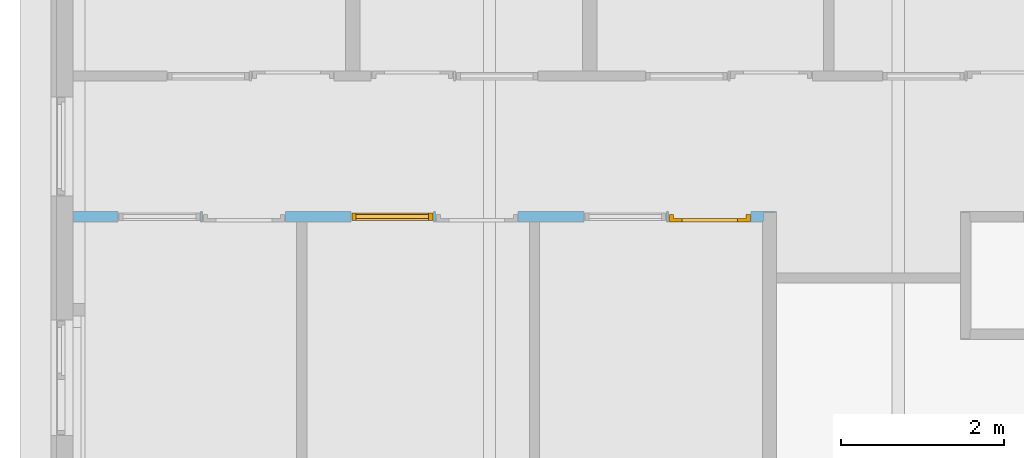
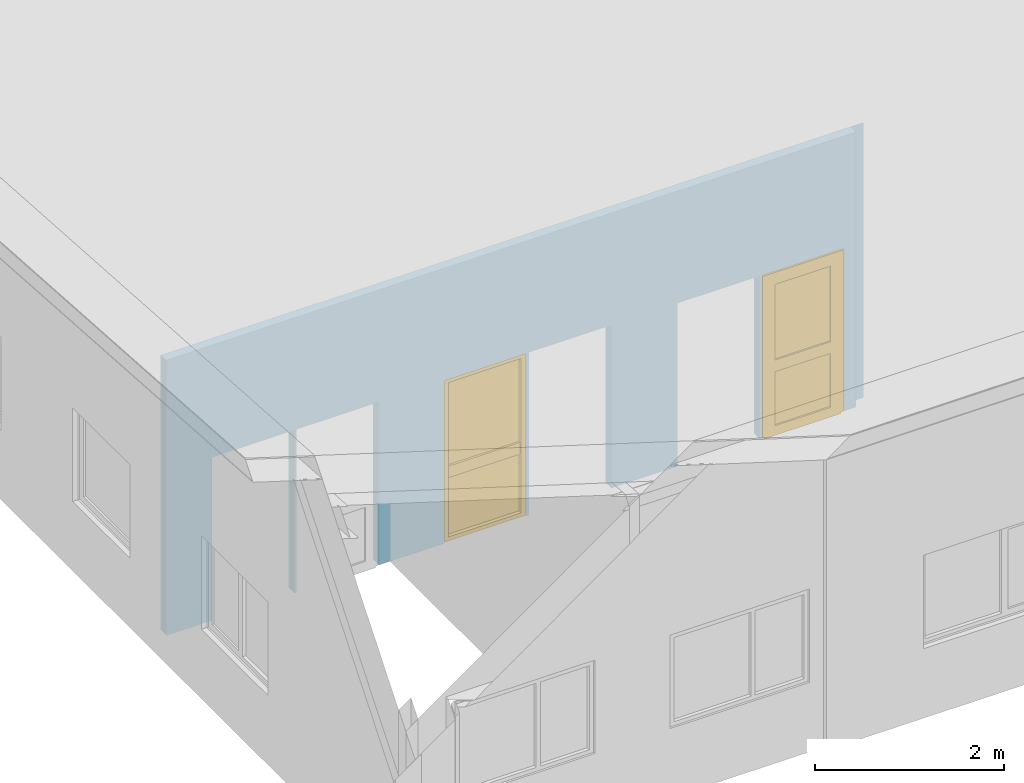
# One storey, part 9 of 37: 1 door, 1 window, 6 openings, plus 1 element that does not belong to this part.
"""IFC2X3 building model written with IfcOpenShell, lengths in millimetres."""

from ifc_helpers import new_model, entity, si_unit, converted_unit, frame, frame_2d, origin, origin_with_axes, place, context, subcontext, project, spatial, polyline, rectangle, outline, extrude, clip, halfspace, faceted_brep, material, layer, layer_set, layer_usage, type_object, element, fill, save


model = new_model("IFC2X3")

# Units and contexts
model_context = context("Model", 3, precision=1e-05, world=origin())
plan_context = context("Plan", 3, precision=1e-05, world=origin())
body_context = subcontext(model_context, "Body", "Model", "MODEL_VIEW")
ifc_project = project(units=[si_unit("LENGTHUNIT", "METRE", prefix="MILLI"), converted_unit("PLANEANGLEUNIT", "DEGREE", entity("IfcPlaneAngleMeasure", 0.0174532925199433), si_unit("PLANEANGLEUNIT", "RADIAN"), dimensions=[0, 0, 0, 0, 0, 0, 0]), si_unit("AREAUNIT", "SQUARE_METRE"), si_unit("VOLUMEUNIT", "CUBIC_METRE")], contexts=[model_context, plan_context])

# Building, storey
building_placement = place(None, origin())
building = spatial("IfcBuilding", under=ifc_project, at=building_placement, Name="HEKF Administrasjonbygg", CompositionType="ELEMENT")
storey_placement = place(building_placement, frame((0.0, 0.0, 9900.0), z_axis=(0.0, 0.0, 1.0), x_axis=(1.0, 0.0, 0.0)))
storey = spatial("IfcBuildingStorey", under=building, at=storey_placement, Name="Plan 2", CompositionType="ELEMENT", Elevation=9900.0)

# Wall, openings, window, door
ifc_material_1 = material(Name="gips")
ifc_layer_1 = layer(ifc_material_1, 13.0)
ifc_material_2 = material(Name="riegel stål 100")
ifc_layer_2 = layer(ifc_material_2, 100.0000000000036)
ifc_material_3 = material(Name="gips")
ifc_layer_3 = layer(ifc_material_3, 13.00000000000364)
ifc_layer_set = layer_set([ifc_layer_1, ifc_layer_2, ifc_layer_3])
ifc_layer_usage = layer_usage(ifc_layer_set, "AXIS2", "POSITIVE", 0.0)
wall_placement = place(storey_placement, frame((9899.999999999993, -6924.999999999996, 0.0), z_axis=(0.0, 0.0, 1.0), x_axis=(1.0, -4.311934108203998e-16, 0.0)))
wall = element("IfcWallStandardCase", 1, at=wall_placement, inside=storey, material=ifc_layer_usage, context=body_context, shape_type="Clipping", body=[
    clip(extrude(outline(polyline([(0.0, 0.0), (8437.0, 0.0), (8437.0, 13.0), (8450.0, 13.00000000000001), (8450.0, 113.0), (8600.0, 113.0000000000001), (8600.0, 126.0000000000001), (-5.433036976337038e-14, 126.0), (0.0, 0.0)])), origin_with_axes(), (0.0, 0.0, 1.0), 3561.666666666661), halfspace(frame((0.0, 0.0, 3561.666666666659), z_axis=(1.067272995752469e-16, -0.06651901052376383, -0.9977851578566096), x_axis=(1.0, 0.0, 2.155967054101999e-16)), True)),
])
opening_1_placement = place(wall_placement, frame((6255.0, -2.728484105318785e-12, 0.0), z_axis=(0.0, 1.0, 0.0), x_axis=(0.0, 0.0, 1.0)))
element("IfcOpeningElement", 2, at=opening_1_placement, cuts=wall, Name="Window opening", ObjectType="Opening", context=body_context, shape_type="SweptSolid", body=[
    extrude(rectangle(XDim=2110.0, YDim=1010.0, at=frame_2d((1055.0, 505.0), x_axis=(1.0, 0.0))), origin_with_axes(), (0.0, 0.0, 1.0), 126.0),
])
opening_2_placement = place(wall_placement, frame((554.9999999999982, 0.0, 0.0), z_axis=(0.0, 1.0, 0.0), x_axis=(0.0, 0.0, 1.0)))
element("IfcOpeningElement", 3, at=opening_2_placement, cuts=wall, Name="Window opening", ObjectType="Opening", context=body_context, shape_type="SweptSolid", body=[
    extrude(rectangle(XDim=2110.0, YDim=1010.0, at=frame_2d((1055.0, 505.0), x_axis=(1.0, 0.0))), origin_with_axes(), (0.0, 0.0, 1.0), 126.0),
])
opening_3_placement = place(wall_placement, frame((3404.999999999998, -1.818989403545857e-12, 0.0), z_axis=(0.0, 1.0, 0.0), x_axis=(0.0, 0.0, 1.0)))
opening_3 = element("IfcOpeningElement", 4, at=opening_3_placement, cuts=wall, Name="Window opening", ObjectType="Opening", context=body_context, shape_type="SweptSolid", body=[
    extrude(rectangle(XDim=2110.0, YDim=1010.0, at=frame_2d((1055.0, 505.0), x_axis=(1.0, 0.0))), origin_with_axes(), (0.0, 0.0, 1.0), 126.0),
])
opening_4_placement = place(wall_placement, frame((7290.0, -3.637978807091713e-12, 0.0), z_axis=(0.0, 1.0, 0.0), x_axis=(0.0, 0.0, 1.0)))
opening_4 = element("IfcOpeningElement", 5, at=opening_4_placement, cuts=wall, Name="garasjeport med glassfelter:45x6", ObjectType="Opening", context=body_context, shape_type="SweptSolid", body=[
    extrude(rectangle(XDim=2110.0, YDim=1010.0, at=frame_2d((1055.0, 505.0), x_axis=(1.0, 0.0))), origin_with_axes(), (0.0, 0.0, 1.0), 126.0),
])
opening_5_placement = place(wall_placement, frame((4439.999999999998, -1.818989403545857e-12, 0.0), z_axis=(0.0, 1.0, 0.0), x_axis=(0.0, 0.0, 1.0)))
element("IfcOpeningElement", 6, at=opening_5_placement, cuts=wall, Name="garasjeport med glassfelter:45x6", ObjectType="Opening", context=body_context, shape_type="SweptSolid", body=[
    extrude(rectangle(XDim=2110.0, YDim=1010.0, at=frame_2d((1055.0, 505.0), x_axis=(1.0, 0.0))), origin_with_axes(), (0.0, 0.0, 1.0), 126.0000000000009),
])
opening_6_placement = place(wall_placement, frame((1589.999999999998, -9.094947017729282e-13, 0.0), z_axis=(0.0, 1.0, 0.0), x_axis=(0.0, 0.0, 1.0)))
element("IfcOpeningElement", 7, at=opening_6_placement, cuts=wall, Name="garasjeport med glassfelter:45x6", ObjectType="Opening", context=body_context, shape_type="SweptSolid", body=[
    extrude(rectangle(XDim=2110.0, YDim=1010.0, at=frame_2d((1055.0, 505.0), x_axis=(1.0, 0.0))), origin_with_axes(), (0.0, 0.0, 1.0), 126.0),
])
ifc_material_4 = material()
window_style = type_object("IfcWindowStyle", Name="IV108", ConstructionType="NOTDEFINED", OperationType="USERDEFINED", ParameterTakesPrecedence=False, Sizeable=False)
window_placement = place(opening_3_placement, frame((0.0, 0.0, 0.0), z_axis=(1.0, 0.0, 0.0), x_axis=(0.0, 1.0, 0.0)))
window = element("IfcWindow", 8, at=window_placement, inside=storey, type_object=window_style, material=ifc_material_4, Name="IV108", OverallHeight=2110.0, OverallWidth=1010.0, context=body_context, shape_type="Brep", body=[
    faceted_brep([(1000.0, 20.00000000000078, 2100.0), (1000.0, 20.00000000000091, -2.816687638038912e-15), (950.0, 20.0000000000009, -2.816687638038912e-15), (950.0, 20.00000000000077, 2100.0), (1000.0, 112.0000000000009, 2.816687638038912e-15), (1000.0, 112.0000000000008, 2100.0), (950.0, 112.0000000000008, 2100.0), (950.0, 112.0000000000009, 2.816687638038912e-15), (1000.0, 20.00000000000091, -2.816687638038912e-15), (1000.0, 20.00000000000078, 2100.0), (1000.0, 112.0000000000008, 2100.0), (1000.0, 112.0000000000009, 2.816687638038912e-15), (950.0, 20.0000000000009, -2.816687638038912e-15), (1000.0, 20.00000000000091, -2.816687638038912e-15), (1000.0, 112.0000000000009, 2.816687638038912e-15), (950.0, 112.0000000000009, 2.816687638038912e-15), (950.0, 20.00000000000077, 2100.0), (950.0, 20.0000000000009, -2.816687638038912e-15), (950.0, 112.0000000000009, 2.816687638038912e-15), (950.0, 112.0000000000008, 2100.0), (1000.0, 20.00000000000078, 2100.0), (950.0, 20.00000000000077, 2100.0), (950.0, 112.0000000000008, 2100.0), (1000.0, 112.0000000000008, 2100.0)], [[[0, 1, 2, 3]], [[4, 5, 6, 7]], [[8, 9, 10, 11]], [[12, 13, 14, 15]], [[16, 17, 18, 19]], [[20, 21, 22, 23]]], orient=[[False], [False], [False], [False], [False], [False]]),
    faceted_brep([(60.0, 20.00000000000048, 2100.0), (60.0, 20.00000000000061, -2.816687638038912e-15), (10.0, 20.0000000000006, -2.816687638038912e-15), (10.0, 20.00000000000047, 2100.0), (60.0, 112.0000000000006, 2.816687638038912e-15), (60.0, 112.0000000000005, 2100.0), (10.0, 112.0000000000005, 2100.0), (10.0, 112.0000000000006, 2.816687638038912e-15), (60.0, 20.00000000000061, -2.816687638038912e-15), (60.0, 20.00000000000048, 2100.0), (60.0, 112.0000000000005, 2100.0), (60.0, 112.0000000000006, 2.816687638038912e-15), (10.0, 20.0000000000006, -2.816687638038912e-15), (60.0, 20.00000000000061, -2.816687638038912e-15), (60.0, 112.0000000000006, 2.816687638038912e-15), (10.0, 112.0000000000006, 2.816687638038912e-15), (10.0, 20.00000000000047, 2100.0), (10.0, 20.0000000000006, -2.816687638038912e-15), (10.0, 112.0000000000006, 2.816687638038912e-15), (10.0, 112.0000000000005, 2100.0), (60.0, 20.00000000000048, 2100.0), (10.0, 20.00000000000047, 2100.0), (10.0, 112.0000000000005, 2100.0), (60.0, 112.0000000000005, 2100.0)], [[[0, 1, 2, 3]], [[4, 5, 6, 7]], [[8, 9, 10, 11]], [[12, 13, 14, 15]], [[16, 17, 18, 19]], [[20, 21, 22, 23]]], orient=[[False], [False], [False], [False], [False], [False]]),
    faceted_brep([(950.0, 20.0000000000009, 50.0), (950.0, 20.0000000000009, -2.816687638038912e-15), (60.00000000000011, 20.00000000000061, -2.816687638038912e-15), (60.00000000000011, 20.00000000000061, 50.0), (950.0, 112.0000000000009, 2.816687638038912e-15), (950.0, 112.0000000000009, 50.00000000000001), (60.00000000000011, 112.0000000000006, 50.00000000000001), (60.00000000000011, 112.0000000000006, 2.816687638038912e-15), (950.0, 20.0000000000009, -2.816687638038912e-15), (950.0, 20.0000000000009, 50.0), (950.0, 112.0000000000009, 50.00000000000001), (950.0, 112.0000000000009, 2.816687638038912e-15), (60.00000000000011, 20.00000000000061, -2.816687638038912e-15), (950.0, 20.0000000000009, -2.816687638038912e-15), (950.0, 112.0000000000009, 2.816687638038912e-15), (60.00000000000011, 112.0000000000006, 2.816687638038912e-15), (60.00000000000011, 20.00000000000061, 50.0), (60.00000000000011, 20.00000000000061, -2.816687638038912e-15), (60.00000000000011, 112.0000000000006, 2.816687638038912e-15), (60.00000000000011, 112.0000000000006, 50.00000000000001), (950.0, 20.0000000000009, 50.0), (60.00000000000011, 20.00000000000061, 50.0), (60.00000000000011, 112.0000000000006, 50.00000000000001), (950.0, 112.0000000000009, 50.00000000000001)], [[[0, 1, 2, 3]], [[4, 5, 6, 7]], [[8, 9, 10, 11]], [[12, 13, 14, 15]], [[16, 17, 18, 19]], [[20, 21, 22, 23]]], orient=[[False], [False], [False], [False], [False], [False]]),
    faceted_brep([(950.0, 20.00000000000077, 2100.000000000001), (950.0, 20.00000000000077, 2050.000000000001), (60.00000000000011, 20.00000000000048, 2050.000000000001), (60.00000000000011, 20.00000000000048, 2100.000000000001), (950.0, 112.0000000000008, 2050.000000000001), (950.0, 112.0000000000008, 2100.000000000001), (60.00000000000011, 112.0000000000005, 2100.000000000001), (60.00000000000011, 112.0000000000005, 2050.000000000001), (950.0, 20.00000000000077, 2050.000000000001), (950.0, 20.00000000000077, 2100.000000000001), (950.0, 112.0000000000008, 2100.000000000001), (950.0, 112.0000000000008, 2050.000000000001), (60.00000000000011, 20.00000000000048, 2050.000000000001), (950.0, 20.00000000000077, 2050.000000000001), (950.0, 112.0000000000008, 2050.000000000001), (60.00000000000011, 112.0000000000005, 2050.000000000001), (60.00000000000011, 20.00000000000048, 2100.000000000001), (60.00000000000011, 20.00000000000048, 2050.000000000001), (60.00000000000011, 112.0000000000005, 2050.000000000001), (60.00000000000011, 112.0000000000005, 2100.000000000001), (950.0, 20.00000000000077, 2100.000000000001), (60.00000000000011, 20.00000000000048, 2100.000000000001), (60.00000000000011, 112.0000000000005, 2100.000000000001), (950.0, 112.0000000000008, 2100.000000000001)], [[[0, 1, 2, 3]], [[4, 5, 6, 7]], [[8, 9, 10, 11]], [[12, 13, 14, 15]], [[16, 17, 18, 19]], [[20, 21, 22, 23]]], orient=[[False], [False], [False], [False], [False], [False]]),
    faceted_brep([(950.0, 41.00000000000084, 950.0), (950.0, 41.00000000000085, 800.0), (60.00000000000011, 41.00000000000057, 800.0), (60.00000000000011, 41.00000000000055, 950.0), (950.0, 91.00000000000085, 800.0), (950.0, 91.00000000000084, 950.0), (60.00000000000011, 91.00000000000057, 950.0), (60.00000000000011, 91.00000000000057, 800.0), (950.0, 41.00000000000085, 800.0), (950.0, 41.00000000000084, 950.0), (950.0, 91.00000000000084, 950.0), (950.0, 91.00000000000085, 800.0), (60.00000000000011, 41.00000000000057, 800.0), (950.0, 41.00000000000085, 800.0), (950.0, 91.00000000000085, 800.0), (60.00000000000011, 91.00000000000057, 800.0), (60.00000000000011, 41.00000000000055, 950.0), (60.00000000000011, 41.00000000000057, 800.0), (60.00000000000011, 91.00000000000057, 800.0), (60.00000000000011, 91.00000000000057, 950.0), (950.0, 41.00000000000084, 950.0), (60.00000000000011, 41.00000000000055, 950.0), (60.00000000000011, 91.00000000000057, 950.0), (950.0, 91.00000000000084, 950.0)], [[[0, 1, 2, 3]], [[4, 5, 6, 7]], [[8, 9, 10, 11]], [[12, 13, 14, 15]], [[16, 17, 18, 19]], [[20, 21, 22, 23]]], orient=[[False], [False], [False], [False], [False], [False]]),
    faceted_brep([(950.0, 66.00000000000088, 50.0), (60.00000000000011, 66.00000000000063, 50.0), (60.00000000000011, 66.00000000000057, 800.0), (950.0, 66.00000000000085, 800.0), (950.0, 67.00000000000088, 50.0), (950.0, 67.00000000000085, 800.0), (60.00000000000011, 67.00000000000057, 800.0), (60.00000000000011, 67.00000000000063, 50.0), (950.0, 66.00000000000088, 50.0), (950.0, 67.00000000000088, 50.0), (60.00000000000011, 67.00000000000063, 50.0), (60.00000000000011, 66.00000000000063, 50.0), (60.00000000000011, 66.00000000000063, 50.0), (60.00000000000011, 67.00000000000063, 50.0), (60.00000000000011, 67.00000000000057, 800.0), (60.00000000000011, 66.00000000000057, 800.0), (60.00000000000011, 66.00000000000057, 800.0), (60.00000000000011, 67.00000000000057, 800.0), (950.0, 67.00000000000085, 800.0), (950.0, 66.00000000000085, 800.0), (950.0, 66.00000000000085, 800.0), (950.0, 67.00000000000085, 800.0), (950.0, 67.00000000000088, 50.0), (950.0, 66.00000000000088, 50.0)], [[[0, 1, 2, 3]], [[4, 5, 6, 7]], [[8, 9, 10, 11]], [[12, 13, 14, 15]], [[16, 17, 18, 19]], [[20, 21, 22, 23]]], orient=[[False], [False], [False], [False], [False], [False]]),
    faceted_brep([(950.0, 66.00000000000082, 950.0000000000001), (60.00000000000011, 66.00000000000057, 950.0000000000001), (60.00000000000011, 66.0000000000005, 2050.000000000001), (950.0, 66.00000000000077, 2050.000000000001), (950.0, 67.00000000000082, 950.0000000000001), (950.0, 67.00000000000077, 2050.000000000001), (60.00000000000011, 67.0000000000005, 2050.000000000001), (60.00000000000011, 67.00000000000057, 950.0000000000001), (950.0, 66.00000000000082, 950.0000000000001), (950.0, 67.00000000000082, 950.0000000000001), (60.00000000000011, 67.00000000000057, 950.0000000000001), (60.00000000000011, 66.00000000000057, 950.0000000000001), (60.00000000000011, 66.00000000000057, 950.0000000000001), (60.00000000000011, 67.00000000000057, 950.0000000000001), (60.00000000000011, 67.0000000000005, 2050.000000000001), (60.00000000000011, 66.0000000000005, 2050.000000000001), (60.00000000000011, 66.0000000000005, 2050.000000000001), (60.00000000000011, 67.0000000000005, 2050.000000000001), (950.0, 67.00000000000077, 2050.000000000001), (950.0, 66.00000000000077, 2050.000000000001), (950.0, 66.00000000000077, 2050.000000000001), (950.0, 67.00000000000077, 2050.000000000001), (950.0, 67.00000000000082, 950.0000000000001), (950.0, 66.00000000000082, 950.0000000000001)], [[[0, 1, 2, 3]], [[4, 5, 6, 7]], [[8, 9, 10, 11]], [[12, 13, 14, 15]], [[16, 17, 18, 19]], [[20, 21, 22, 23]]], orient=[[False], [False], [False], [False], [False], [False]]),
])
fill(opening_3, window)
ifc_material_5 = material()
door_style = type_object("IfcDoorStyle", Name="D114", ConstructionType="NOTDEFINED", OperationType="USERDEFINED", ParameterTakesPrecedence=False, Sizeable=False)
door_placement = place(opening_4_placement, frame((0.0, 0.0, 0.0), z_axis=(1.0, 0.0, 0.0), x_axis=(0.0, 1.0, 0.0)))
door = element("IfcDoor", 9, at=door_placement, inside=storey, type_object=door_style, material=ifc_material_5, Name="D114", OverallHeight=2110.0, OverallWidth=1010.0, context=body_context, shape_type="Brep", body=[
    faceted_brep([(1000.0, 1.000000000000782, 2090.0), (1000.0, 1.00000000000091, -2.816687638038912e-15), (950.0, 1.000000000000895, -2.816687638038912e-15), (950.0, 1.000000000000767, 2090.0), (1000.0, 93.00000000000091, 2.816687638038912e-15), (1000.0, 93.00000000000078, 2090.0), (950.0, 93.00000000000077, 2090.0), (950.0, 93.0000000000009, 2.816687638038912e-15), (1000.0, 1.00000000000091, -2.816687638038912e-15), (1000.0, 1.000000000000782, 2090.0), (1000.0, 93.00000000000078, 2090.0), (1000.0, 93.00000000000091, 2.816687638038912e-15), (950.0, 1.000000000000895, -2.816687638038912e-15), (1000.0, 1.00000000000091, -2.816687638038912e-15), (1000.0, 93.00000000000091, 2.816687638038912e-15), (950.0, 93.0000000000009, 2.816687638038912e-15), (950.0, 1.000000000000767, 2090.0), (950.0, 1.000000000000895, -2.816687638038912e-15), (950.0, 93.0000000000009, 2.816687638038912e-15), (950.0, 93.00000000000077, 2090.0), (1000.0, 1.000000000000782, 2090.0), (950.0, 1.000000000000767, 2090.0), (950.0, 93.00000000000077, 2090.0), (1000.0, 93.00000000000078, 2090.0)], [[[0, 1, 2, 3]], [[4, 5, 6, 7]], [[8, 9, 10, 11]], [[12, 13, 14, 15]], [[16, 17, 18, 19]], [[20, 21, 22, 23]]], orient=[[False], [False], [False], [False], [False], [False]]),
    faceted_brep([(60.0, 1.000000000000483, 2090.0), (60.0, 1.000000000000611, -2.816687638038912e-15), (10.0, 1.000000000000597, -2.816687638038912e-15), (10.0, 1.000000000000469, 2090.0), (60.0, 93.00000000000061, 2.816687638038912e-15), (60.0, 93.00000000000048, 2090.0), (10.0, 93.00000000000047, 2090.0), (10.0, 93.0000000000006, 2.816687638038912e-15), (60.0, 1.000000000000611, -2.816687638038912e-15), (60.0, 1.000000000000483, 2090.0), (60.0, 93.00000000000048, 2090.0), (60.0, 93.00000000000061, 2.816687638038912e-15), (10.0, 1.000000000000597, -2.816687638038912e-15), (60.0, 1.000000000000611, -2.816687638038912e-15), (60.0, 93.00000000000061, 2.816687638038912e-15), (10.0, 93.0000000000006, 2.816687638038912e-15), (10.0, 1.000000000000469, 2090.0), (10.0, 1.000000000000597, -2.816687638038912e-15), (10.0, 93.0000000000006, 2.816687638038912e-15), (10.0, 93.00000000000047, 2090.0), (60.0, 1.000000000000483, 2090.0), (10.0, 1.000000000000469, 2090.0), (10.0, 93.00000000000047, 2090.0), (60.0, 93.00000000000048, 2090.0)], [[[0, 1, 2, 3]], [[4, 5, 6, 7]], [[8, 9, 10, 11]], [[12, 13, 14, 15]], [[16, 17, 18, 19]], [[20, 21, 22, 23]]], orient=[[False], [False], [False], [False], [False], [False]]),
    faceted_brep([(950.0, 1.000000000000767, 2090.0), (950.0, 1.000000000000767, 2040.0), (60.00000000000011, 1.000000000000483, 2040.0), (60.00000000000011, 1.000000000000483, 2090.0), (950.0, 93.00000000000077, 2040.0), (950.0, 93.00000000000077, 2090.0), (60.00000000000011, 93.00000000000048, 2090.0), (60.00000000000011, 93.00000000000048, 2040.0), (950.0, 1.000000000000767, 2040.0), (950.0, 1.000000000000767, 2090.0), (950.0, 93.00000000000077, 2090.0), (950.0, 93.00000000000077, 2040.0), (60.00000000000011, 1.000000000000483, 2040.0), (950.0, 1.000000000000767, 2040.0), (950.0, 93.00000000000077, 2040.0), (60.00000000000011, 93.00000000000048, 2040.0), (60.00000000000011, 1.000000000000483, 2090.0), (60.00000000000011, 1.000000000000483, 2040.0), (60.00000000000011, 93.00000000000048, 2040.0), (60.00000000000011, 93.00000000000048, 2090.0), (950.0, 1.000000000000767, 2090.0), (60.00000000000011, 1.000000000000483, 2090.0), (60.00000000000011, 93.00000000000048, 2090.0), (950.0, 93.00000000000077, 2090.0)], [[[0, 1, 2, 3]], [[4, 5, 6, 7]], [[8, 9, 10, 11]], [[12, 13, 14, 15]], [[16, 17, 18, 19]], [[20, 21, 22, 23]]], orient=[[False], [False], [False], [False], [False], [False]]),
    faceted_brep([(970.0, 1.000000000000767, 2060.0), (970.0, 1.000000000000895, -20.0), (845.0, 1.000000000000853, -20.0), (845.0, 1.000000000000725, 2060.0), (970.0, 41.0000000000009, -20.0), (970.0, 41.00000000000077, 2060.0), (845.0, 41.00000000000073, 2060.0), (845.0, 41.00000000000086, -20.0), (970.0, 1.000000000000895, -20.0), (970.0, 1.000000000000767, 2060.0), (970.0, 41.00000000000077, 2060.0), (970.0, 41.0000000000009, -20.0), (845.0, 1.000000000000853, -20.0), (970.0, 1.000000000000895, -20.0), (970.0, 41.0000000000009, -20.0), (845.0, 41.00000000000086, -20.0), (845.0, 1.000000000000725, 2060.0), (845.0, 1.000000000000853, -20.0), (845.0, 41.00000000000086, -20.0), (845.0, 41.00000000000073, 2060.0), (970.0, 1.000000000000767, 2060.0), (845.0, 1.000000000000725, 2060.0), (845.0, 41.00000000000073, 2060.0), (970.0, 41.00000000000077, 2060.0)], [[[0, 1, 2, 3]], [[4, 5, 6, 7]], [[8, 9, 10, 11]], [[12, 13, 14, 15]], [[16, 17, 18, 19]], [[20, 21, 22, 23]]], orient=[[False], [False], [False], [False], [False], [False]]),
    faceted_brep([(165.0000000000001, 1.000000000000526, 2060.0), (165.0000000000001, 1.000000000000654, -20.0), (40.00000000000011, 1.000000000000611, -20.0), (40.00000000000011, 1.000000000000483, 2060.0), (165.0000000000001, 41.00000000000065, -20.0), (165.0000000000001, 41.00000000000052, 2060.0), (40.00000000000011, 41.00000000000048, 2060.0), (40.00000000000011, 41.00000000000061, -20.0), (165.0000000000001, 1.000000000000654, -20.0), (165.0000000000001, 1.000000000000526, 2060.0), (165.0000000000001, 41.00000000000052, 2060.0), (165.0000000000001, 41.00000000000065, -20.0), (40.00000000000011, 1.000000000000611, -20.0), (165.0000000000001, 1.000000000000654, -20.0), (165.0000000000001, 41.00000000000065, -20.0), (40.00000000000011, 41.00000000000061, -20.0), (40.00000000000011, 1.000000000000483, 2060.0), (40.00000000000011, 1.000000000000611, -20.0), (40.00000000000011, 41.00000000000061, -20.0), (40.00000000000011, 41.00000000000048, 2060.0), (165.0000000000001, 1.000000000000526, 2060.0), (40.00000000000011, 1.000000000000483, 2060.0), (40.00000000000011, 41.00000000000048, 2060.0), (165.0000000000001, 41.00000000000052, 2060.0)], [[[0, 1, 2, 3]], [[4, 5, 6, 7]], [[8, 9, 10, 11]], [[12, 13, 14, 15]], [[16, 17, 18, 19]], [[20, 21, 22, 23]]], orient=[[False], [False], [False], [False], [False], [False]]),
    faceted_brep([(845.0, 1.000000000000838, 105.0), (845.0, 1.000000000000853, -20.0), (165.0000000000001, 1.000000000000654, -20.0), (165.0000000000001, 1.00000000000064, 105.0), (845.0, 41.00000000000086, -20.0), (845.0, 41.00000000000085, 105.0), (165.0000000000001, 41.00000000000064, 105.0), (165.0000000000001, 41.00000000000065, -20.0), (845.0, 1.000000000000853, -20.0), (845.0, 1.000000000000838, 105.0), (845.0, 41.00000000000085, 105.0), (845.0, 41.00000000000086, -20.0), (165.0000000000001, 1.000000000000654, -20.0), (845.0, 1.000000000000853, -20.0), (845.0, 41.00000000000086, -20.0), (165.0000000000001, 41.00000000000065, -20.0), (165.0000000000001, 1.00000000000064, 105.0), (165.0000000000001, 1.000000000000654, -20.0), (165.0000000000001, 41.00000000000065, -20.0), (165.0000000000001, 41.00000000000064, 105.0), (845.0, 1.000000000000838, 105.0), (165.0000000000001, 1.00000000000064, 105.0), (165.0000000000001, 41.00000000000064, 105.0), (845.0, 41.00000000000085, 105.0)], [[[0, 1, 2, 3]], [[4, 5, 6, 7]], [[8, 9, 10, 11]], [[12, 13, 14, 15]], [[16, 17, 18, 19]], [[20, 21, 22, 23]]], orient=[[False], [False], [False], [False], [False], [False]]),
    faceted_brep([(845.0, 1.000000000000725, 2060.0), (845.0, 1.000000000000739, 1935.0), (165.0000000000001, 1.00000000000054, 1935.0), (165.0000000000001, 1.000000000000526, 2060.0), (845.0, 41.00000000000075, 1935.0), (845.0, 41.00000000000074, 2060.0), (165.0000000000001, 41.00000000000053, 2060.0), (165.0000000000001, 41.00000000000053, 1935.0), (845.0, 1.000000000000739, 1935.0), (845.0, 1.000000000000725, 2060.0), (845.0, 41.00000000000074, 2060.0), (845.0, 41.00000000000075, 1935.0), (165.0000000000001, 1.00000000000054, 1935.0), (845.0, 1.000000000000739, 1935.0), (845.0, 41.00000000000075, 1935.0), (165.0000000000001, 41.00000000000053, 1935.0), (165.0000000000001, 1.000000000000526, 2060.0), (165.0000000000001, 1.00000000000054, 1935.0), (165.0000000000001, 41.00000000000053, 1935.0), (165.0000000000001, 41.00000000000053, 2060.0), (845.0, 1.000000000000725, 2060.0), (165.0000000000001, 1.000000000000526, 2060.0), (165.0000000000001, 41.00000000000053, 2060.0), (845.0, 41.00000000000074, 2060.0)], [[[0, 1, 2, 3]], [[4, 5, 6, 7]], [[8, 9, 10, 11]], [[12, 13, 14, 15]], [[16, 17, 18, 19]], [[20, 21, 22, 23]]], orient=[[False], [False], [False], [False], [False], [False]]),
    faceted_brep([(845.0, 1.000000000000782, 955.0), (845.0, 1.000000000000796, 805.0), (165.0000000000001, 1.000000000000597, 805.0), (165.0000000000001, 1.000000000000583, 955.0), (845.0, 41.0000000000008, 805.0), (845.0, 41.0000000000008, 955.0), (165.0000000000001, 41.00000000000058, 955.0), (165.0000000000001, 41.00000000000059, 805.0), (845.0, 1.000000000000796, 805.0), (845.0, 1.000000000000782, 955.0), (845.0, 41.0000000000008, 955.0), (845.0, 41.0000000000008, 805.0), (165.0000000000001, 1.000000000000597, 805.0), (845.0, 1.000000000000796, 805.0), (845.0, 41.0000000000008, 805.0), (165.0000000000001, 41.00000000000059, 805.0), (165.0000000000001, 1.000000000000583, 955.0), (165.0000000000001, 1.000000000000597, 805.0), (165.0000000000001, 41.00000000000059, 805.0), (165.0000000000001, 41.00000000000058, 955.0), (845.0, 1.000000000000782, 955.0), (165.0000000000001, 1.000000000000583, 955.0), (165.0000000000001, 41.00000000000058, 955.0), (845.0, 41.0000000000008, 955.0)], [[[0, 1, 2, 3]], [[4, 5, 6, 7]], [[8, 9, 10, 11]], [[12, 13, 14, 15]], [[16, 17, 18, 19]], [[20, 21, 22, 23]]], orient=[[False], [False], [False], [False], [False], [False]]),
    faceted_brep([(845.0, 21.00000000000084, 105.0), (165.0000000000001, 21.00000000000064, 105.0), (165.0000000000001, 21.0000000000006, 805.0), (845.0, 21.0000000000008, 805.0), (845.0, 22.00000000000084, 105.0), (845.0, 22.0000000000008, 805.0), (165.0000000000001, 22.0000000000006, 805.0), (165.0000000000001, 22.00000000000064, 105.0), (845.0, 21.00000000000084, 105.0), (845.0, 22.00000000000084, 105.0), (165.0000000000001, 22.00000000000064, 105.0), (165.0000000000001, 21.00000000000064, 105.0), (165.0000000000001, 21.00000000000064, 105.0), (165.0000000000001, 22.00000000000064, 105.0), (165.0000000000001, 22.0000000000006, 805.0), (165.0000000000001, 21.0000000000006, 805.0), (165.0000000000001, 21.0000000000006, 805.0), (165.0000000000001, 22.0000000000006, 805.0), (845.0, 22.0000000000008, 805.0), (845.0, 21.0000000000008, 805.0), (845.0, 21.0000000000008, 805.0), (845.0, 22.0000000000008, 805.0), (845.0, 22.00000000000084, 105.0), (845.0, 21.00000000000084, 105.0)], [[[0, 1, 2, 3]], [[4, 5, 6, 7]], [[8, 9, 10, 11]], [[12, 13, 14, 15]], [[16, 17, 18, 19]], [[20, 21, 22, 23]]], orient=[[False], [False], [False], [False], [False], [False]]),
    faceted_brep([(845.0, 21.0000000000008, 955.0), (165.0000000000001, 21.0000000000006, 955.0), (165.0000000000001, 21.00000000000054, 1935.0), (845.0, 21.00000000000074, 1935.0), (845.0, 22.0000000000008, 955.0), (845.0, 22.00000000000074, 1935.0), (165.0000000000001, 22.00000000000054, 1935.0), (165.0000000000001, 22.0000000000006, 955.0), (845.0, 21.0000000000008, 955.0), (845.0, 22.0000000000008, 955.0), (165.0000000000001, 22.0000000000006, 955.0), (165.0000000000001, 21.0000000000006, 955.0), (165.0000000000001, 21.0000000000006, 955.0), (165.0000000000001, 22.0000000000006, 955.0), (165.0000000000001, 22.00000000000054, 1935.0), (165.0000000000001, 21.00000000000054, 1935.0), (165.0000000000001, 21.00000000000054, 1935.0), (165.0000000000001, 22.00000000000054, 1935.0), (845.0, 22.00000000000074, 1935.0), (845.0, 21.00000000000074, 1935.0), (845.0, 21.00000000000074, 1935.0), (845.0, 22.00000000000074, 1935.0), (845.0, 22.0000000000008, 955.0), (845.0, 21.0000000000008, 955.0)], [[[0, 1, 2, 3]], [[4, 5, 6, 7]], [[8, 9, 10, 11]], [[12, 13, 14, 15]], [[16, 17, 18, 19]], [[20, 21, 22, 23]]], orient=[[False], [False], [False], [False], [False], [False]]),
])
fill(opening_4, door)

save(model, "model.ifc")
